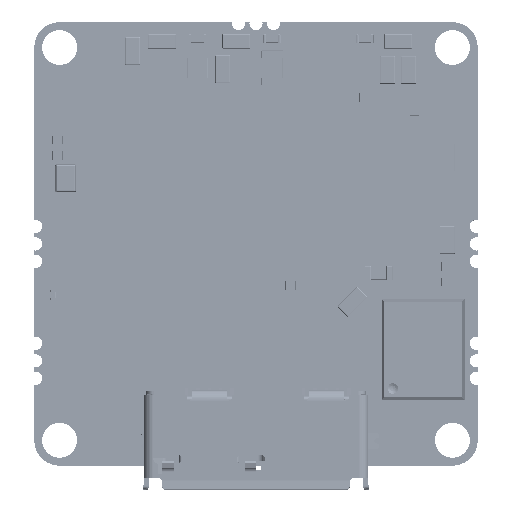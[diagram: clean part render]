
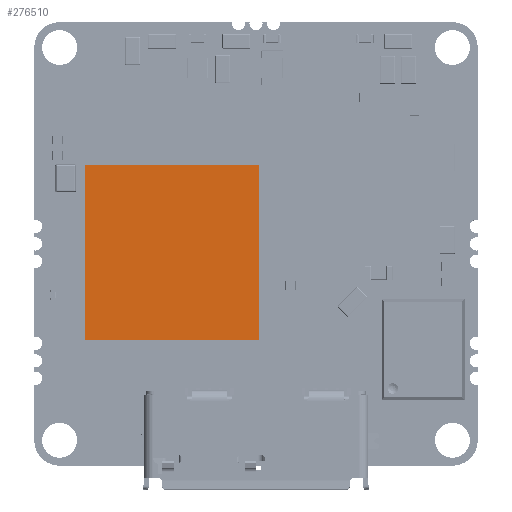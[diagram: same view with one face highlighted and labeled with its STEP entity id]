
A CAD part, top view. The second image highlights one B-rep face of the part: STEP entity #276510.
In plain terms, the highlighted planar face has unit normal (0, 0, 1).
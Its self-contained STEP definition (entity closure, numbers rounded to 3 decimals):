
#276196 = VERTEX_POINT('',#276197);
#276197 = CARTESIAN_POINT('',(5.,-5.,0.89));
#276204 = PLANE('',#276205);
#276205 = AXIS2_PLACEMENT_3D('',#276206,#276207,#276208);
#276206 = CARTESIAN_POINT('',(5.,-5.,0.));
#276207 = DIRECTION('',(0.,-1.,0.));
#276208 = DIRECTION('',(-1.,0.,0.));
#276216 = PLANE('',#276217);
#276217 = AXIS2_PLACEMENT_3D('',#276218,#276219,#276220);
#276218 = CARTESIAN_POINT('',(5.,5.,0.));
#276219 = DIRECTION('',(1.,0.,0.));
#276220 = DIRECTION('',(0.,-1.,0.));
#276228 = EDGE_CURVE('',#276196,#276229,#276231,.T.);
#276229 = VERTEX_POINT('',#276230);
#276230 = CARTESIAN_POINT('',(-5.,-5.,0.89));
#276231 = SURFACE_CURVE('',#276232,(#276236,#276243),.PCURVE_S1.);
#276232 = LINE('',#276233,#276234);
#276233 = CARTESIAN_POINT('',(5.,-5.,0.89));
#276234 = VECTOR('',#276235,1.);
#276235 = DIRECTION('',(-1.,0.,0.));
#276236 = PCURVE('',#276204,#276237);
#276237 = DEFINITIONAL_REPRESENTATION('',(#276238),#276242);
#276238 = LINE('',#276239,#276240);
#276239 = CARTESIAN_POINT('',(0.,-0.89));
#276240 = VECTOR('',#276241,1.);
#276241 = DIRECTION('',(1.,0.));
#276242 = ( GEOMETRIC_REPRESENTATION_CONTEXT(2) 
PARAMETRIC_REPRESENTATION_CONTEXT() REPRESENTATION_CONTEXT('2D SPACE',''
  ) );
#276243 = PCURVE('',#276244,#276249);
#276244 = PLANE('',#276245);
#276245 = AXIS2_PLACEMENT_3D('',#276246,#276247,#276248);
#276246 = CARTESIAN_POINT('',(5.,-5.,0.89));
#276247 = DIRECTION('',(0.,0.,1.));
#276248 = DIRECTION('',(1.,0.,0.));
#276249 = DEFINITIONAL_REPRESENTATION('',(#276250),#276254);
#276250 = LINE('',#276251,#276252);
#276251 = CARTESIAN_POINT('',(0.,0.));
#276252 = VECTOR('',#276253,1.);
#276253 = DIRECTION('',(-1.,0.));
#276254 = ( GEOMETRIC_REPRESENTATION_CONTEXT(2) 
PARAMETRIC_REPRESENTATION_CONTEXT() REPRESENTATION_CONTEXT('2D SPACE',''
  ) );
#276272 = PLANE('',#276273);
#276273 = AXIS2_PLACEMENT_3D('',#276274,#276275,#276276);
#276274 = CARTESIAN_POINT('',(-5.,-5.,0.));
#276275 = DIRECTION('',(-1.,0.,0.));
#276276 = DIRECTION('',(0.,1.,0.));
#276314 = EDGE_CURVE('',#276229,#276315,#276317,.T.);
#276315 = VERTEX_POINT('',#276316);
#276316 = CARTESIAN_POINT('',(-5.,5.,0.89));
#276317 = SURFACE_CURVE('',#276318,(#276322,#276329),.PCURVE_S1.);
#276318 = LINE('',#276319,#276320);
#276319 = CARTESIAN_POINT('',(-5.,-5.,0.89));
#276320 = VECTOR('',#276321,1.);
#276321 = DIRECTION('',(0.,1.,0.));
#276322 = PCURVE('',#276272,#276323);
#276323 = DEFINITIONAL_REPRESENTATION('',(#276324),#276328);
#276324 = LINE('',#276325,#276326);
#276325 = CARTESIAN_POINT('',(0.,-0.89));
#276326 = VECTOR('',#276327,1.);
#276327 = DIRECTION('',(1.,0.));
#276328 = ( GEOMETRIC_REPRESENTATION_CONTEXT(2) 
PARAMETRIC_REPRESENTATION_CONTEXT() REPRESENTATION_CONTEXT('2D SPACE',''
  ) );
#276329 = PCURVE('',#276244,#276330);
#276330 = DEFINITIONAL_REPRESENTATION('',(#276331),#276335);
#276331 = LINE('',#276332,#276333);
#276332 = CARTESIAN_POINT('',(-10.,0.));
#276333 = VECTOR('',#276334,1.);
#276334 = DIRECTION('',(0.,1.));
#276335 = ( GEOMETRIC_REPRESENTATION_CONTEXT(2) 
PARAMETRIC_REPRESENTATION_CONTEXT() REPRESENTATION_CONTEXT('2D SPACE',''
  ) );
#276353 = PLANE('',#276354);
#276354 = AXIS2_PLACEMENT_3D('',#276355,#276356,#276357);
#276355 = CARTESIAN_POINT('',(-5.,5.,0.));
#276356 = DIRECTION('',(0.,1.,0.));
#276357 = DIRECTION('',(1.,0.,0.));
#276390 = EDGE_CURVE('',#276315,#276391,#276393,.T.);
#276391 = VERTEX_POINT('',#276392);
#276392 = CARTESIAN_POINT('',(5.,5.,0.89));
#276393 = SURFACE_CURVE('',#276394,(#276398,#276405),.PCURVE_S1.);
#276394 = LINE('',#276395,#276396);
#276395 = CARTESIAN_POINT('',(-5.,5.,0.89));
#276396 = VECTOR('',#276397,1.);
#276397 = DIRECTION('',(1.,0.,0.));
#276398 = PCURVE('',#276353,#276399);
#276399 = DEFINITIONAL_REPRESENTATION('',(#276400),#276404);
#276400 = LINE('',#276401,#276402);
#276401 = CARTESIAN_POINT('',(0.,-0.89));
#276402 = VECTOR('',#276403,1.);
#276403 = DIRECTION('',(1.,0.));
#276404 = ( GEOMETRIC_REPRESENTATION_CONTEXT(2) 
PARAMETRIC_REPRESENTATION_CONTEXT() REPRESENTATION_CONTEXT('2D SPACE',''
  ) );
#276405 = PCURVE('',#276244,#276406);
#276406 = DEFINITIONAL_REPRESENTATION('',(#276407),#276411);
#276407 = LINE('',#276408,#276409);
#276408 = CARTESIAN_POINT('',(-10.,10.));
#276409 = VECTOR('',#276410,1.);
#276410 = DIRECTION('',(1.,0.));
#276411 = ( GEOMETRIC_REPRESENTATION_CONTEXT(2) 
PARAMETRIC_REPRESENTATION_CONTEXT() REPRESENTATION_CONTEXT('2D SPACE',''
  ) );
#276461 = EDGE_CURVE('',#276391,#276196,#276462,.T.);
#276462 = SURFACE_CURVE('',#276463,(#276467,#276474),.PCURVE_S1.);
#276463 = LINE('',#276464,#276465);
#276464 = CARTESIAN_POINT('',(5.,5.,0.89));
#276465 = VECTOR('',#276466,1.);
#276466 = DIRECTION('',(0.,-1.,0.));
#276467 = PCURVE('',#276216,#276468);
#276468 = DEFINITIONAL_REPRESENTATION('',(#276469),#276473);
#276469 = LINE('',#276470,#276471);
#276470 = CARTESIAN_POINT('',(0.,-0.89));
#276471 = VECTOR('',#276472,1.);
#276472 = DIRECTION('',(1.,0.));
#276473 = ( GEOMETRIC_REPRESENTATION_CONTEXT(2) 
PARAMETRIC_REPRESENTATION_CONTEXT() REPRESENTATION_CONTEXT('2D SPACE',''
  ) );
#276474 = PCURVE('',#276244,#276475);
#276475 = DEFINITIONAL_REPRESENTATION('',(#276476),#276480);
#276476 = LINE('',#276477,#276478);
#276477 = CARTESIAN_POINT('',(0.,10.));
#276478 = VECTOR('',#276479,1.);
#276479 = DIRECTION('',(0.,-1.));
#276480 = ( GEOMETRIC_REPRESENTATION_CONTEXT(2) 
PARAMETRIC_REPRESENTATION_CONTEXT() REPRESENTATION_CONTEXT('2D SPACE',''
  ) );
#276510 = ADVANCED_FACE('',(#276511),#276244,.T.);
#276511 = FACE_BOUND('',#276512,.F.);
#276512 = EDGE_LOOP('',(#276513,#276514,#276515,#276516));
#276513 = ORIENTED_EDGE('',*,*,#276228,.T.);
#276514 = ORIENTED_EDGE('',*,*,#276314,.T.);
#276515 = ORIENTED_EDGE('',*,*,#276390,.T.);
#276516 = ORIENTED_EDGE('',*,*,#276461,.T.);
